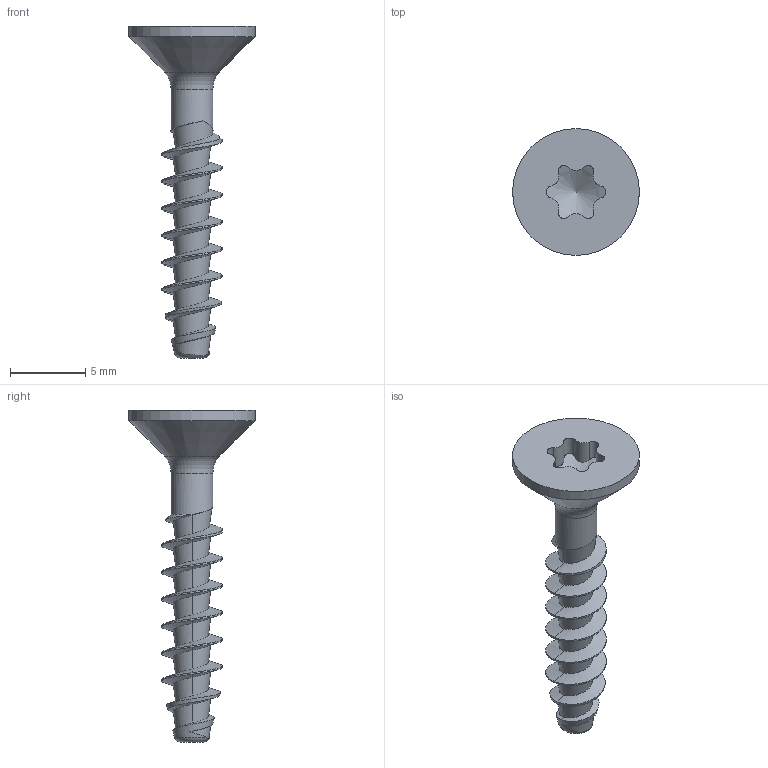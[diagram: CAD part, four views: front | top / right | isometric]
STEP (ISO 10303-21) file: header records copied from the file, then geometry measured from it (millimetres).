
FILE_DESCRIPTION(/* description */ (''),/* implementation_level */ '2;1');
FILE_NAME(/* name */ 'KN1041-STS-40x22-T20.step',/* time_stamp */ '2017-10-17T14:20:37+02:00',/* author */ (''),/* organization */ (''),/* preprocessor_version */ 'ST-DEVELOPER v16',/* originating_system */ 'SIEMENS PLM Software NX 10.0',/* authorisation */ '');
FILE_SCHEMA (('AUTOMOTIVE_DESIGN { 1 0 10303 214 3 1 1 1 }'));
Length unit declared in the file: millimetre
Products named in the file (1): KN1041-STS-40x22-T20
Bounding box: 8.4 x 8.4 x 22 mm (x, y, z)
Volume: 202.6 mm3; surface area: 411.2 mm2
Topology: 1 solids, 1 shells, 52 faces, 130 edges, 80 vertices
Faces by surface type: bspline 29, cylinder 15, cone 4, torus 2, plane 2
Full cylindrical faces by diameter (mm): 2.76 x1, 8.4 x1
Entity records: 3437 total; most frequent: CARTESIAN_POINT 2419, ORIENTED_EDGE 240, DIRECTION 128, EDGE_CURVE 120, VERTEX_POINT 77, B_SPLINE_CURVE_WITH_KNOTS 61, EDGE_LOOP 58, ADVANCED_FACE 52
